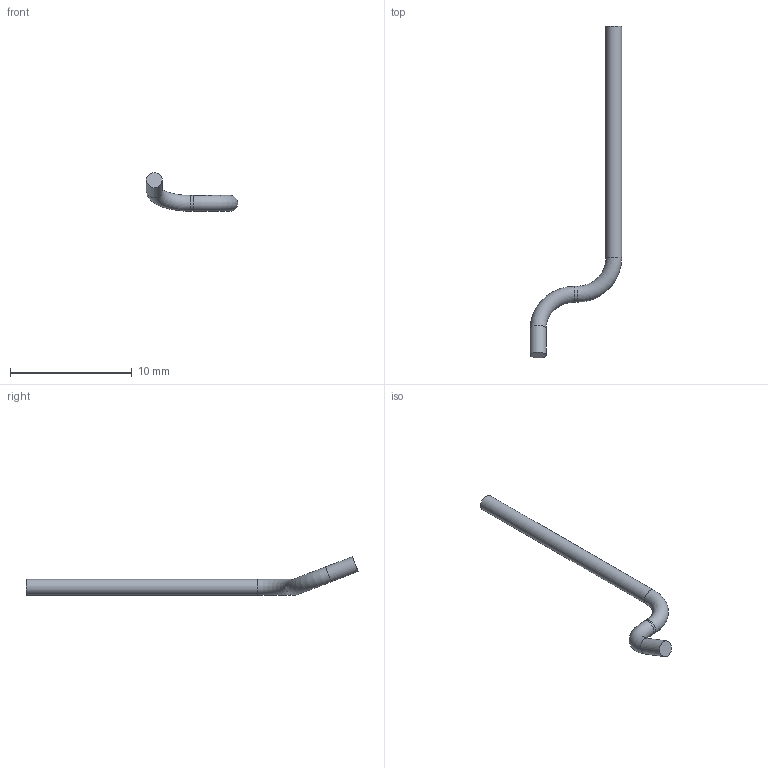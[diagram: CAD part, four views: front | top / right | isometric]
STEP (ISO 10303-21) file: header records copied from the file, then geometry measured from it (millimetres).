
FILE_DESCRIPTION(('Open CASCADE Model'),'2;1');
FILE_NAME('R36_SPEAKER_SHORTENED_FACTORY_LEAD_1_OD1p3_R3', '2026-09-15T14:21:06',('Author'),('Open CASCADE'), 'Open CASCADE STEP processor 7.9','build123d','Unknown');
FILE_SCHEMA(('AUTOMOTIVE_DESIGN { 1 0 10303 214 1 1 1 1 }'));
Length unit declared in the file: millimetre
Products named in the file (1): R36_SPEAKER_SHORTENED_FACTORY_LEAD_1_OD1p3_R3
Bounding box: 7.5 x 27.23 x 3.16 mm (x, y, z)
Volume: 41.1 mm3; surface area: 129.2 mm2
Topology: 1 solids, 1 shells, 7 faces, 11 edges, 6 vertices
Faces by surface type: cylinder 3, torus 2, plane 2
Full cylindrical faces by diameter (mm): 1.3 x3
Entity records: 305 total; most frequent: CARTESIAN_POINT 56, DIRECTION 48, ORIENTED_EDGE 22, PCURVE 22, DEFINITIONAL_REPRESENTATION 22, AXIS2_PLACEMENT_3D 16, LINE 14, VECTOR 14
